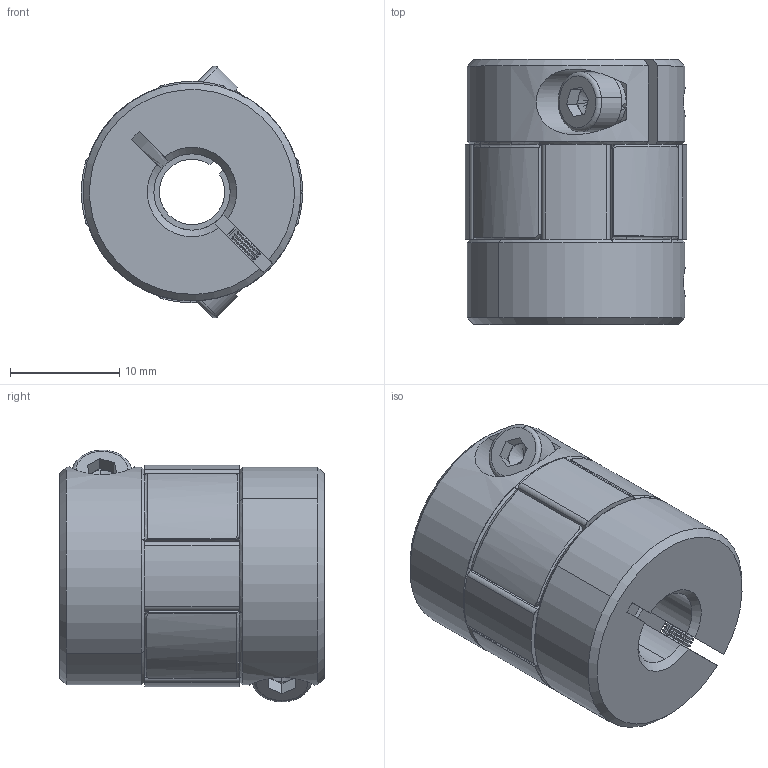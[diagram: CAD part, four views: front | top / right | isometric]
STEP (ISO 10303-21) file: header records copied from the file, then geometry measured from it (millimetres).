
FILE_DESCRIPTION (( 'STEP AP203' ), '1' );
FILE_NAME ('LF-B-D20L25-6-7.STEP', '2021-10-20T01:28:52', ( '' ), ( '' ), 'SwSTEP 2.0', 'SolidWorks 2018', '' );
FILE_SCHEMA (( 'CONFIG_CONTROL_DESIGN' ));
Length unit declared in the file: millimetre
Products named in the file (1): LF-B-D20L25-6-7
Bounding box: 20.31 x 24.3 x 23.09 mm (x, y, z)
Volume: 6521 mm3; surface area: 3566.5 mm2
Topology: 1 solids, 1 shells, 428 faces, 1069 edges, 633 vertices
Faces by surface type: cylinder 165, cone 158, plane 93, torus 12
Entity records: 13093 total; most frequent: CARTESIAN_POINT 2714, DIRECTION 2316, ORIENTED_EDGE 2130, EDGE_CURVE 1065, AXIS2_PLACEMENT_3D 953, VERTEX_POINT 633, CIRCLE 524, EDGE_LOOP 444
